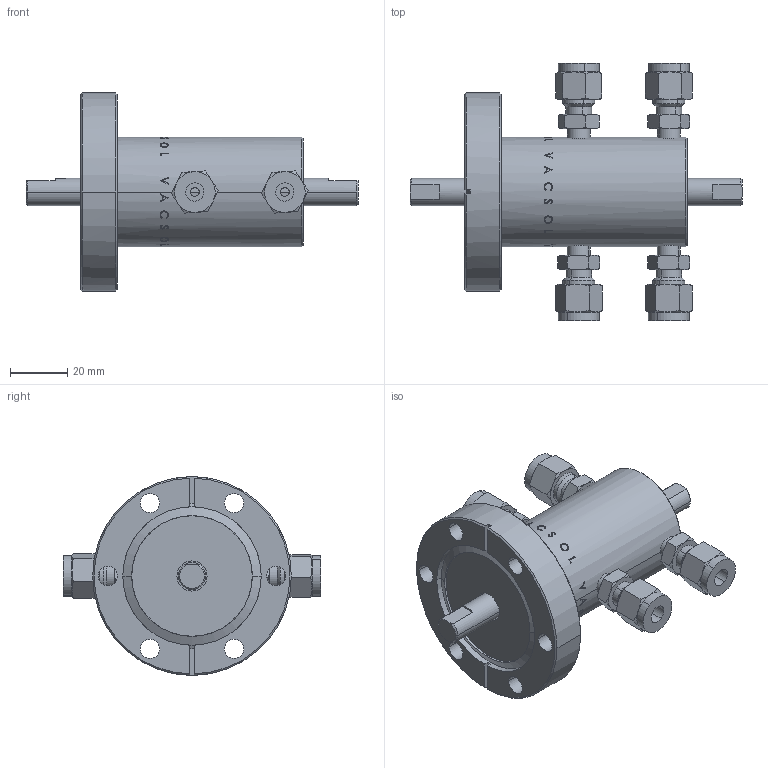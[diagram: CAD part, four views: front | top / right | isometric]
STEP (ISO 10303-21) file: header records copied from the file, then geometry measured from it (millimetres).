
FILE_DESCRIPTION (( 'STEP AP203' ), '1' );
FILE_NAME ('6303126.STEP', '2010-12-12T12:45:55', ( 'user' ), ( '' ), 'SwSTEP 2.0', 'SolidWorks 2007', '' );
FILE_SCHEMA (( 'CONFIG_CONTROL_DESIGN' ));
Length unit declared in the file: millimetre
Products named in the file (3): P6303126_??; SS_400_1_1_??; 6303126
Assembly tree (5 placements, depth 2):
  6303126
    SS_400_1_1_??  x4
    P6303126_??
Bounding box: 115.8 x 89.84 x 69.3 mm (x, y, z)
Volume: 131462 mm3; surface area: 30964.2 mm2
Topology: 5 solids, 5 shells, 530 faces, 1286 edges, 811 vertices
Faces by surface type: bspline 177, cone 151, cylinder 104, plane 98
Entity records: 23613 total; most frequent: CARTESIAN_POINT 16548, ORIENTED_EDGE 1732, EDGE_CURVE 866, DIRECTION 764, B_SPLINE_CURVE_WITH_KNOTS 598, VERTEX_POINT 562, EDGE_LOOP 388, ADVANCED_FACE 341
